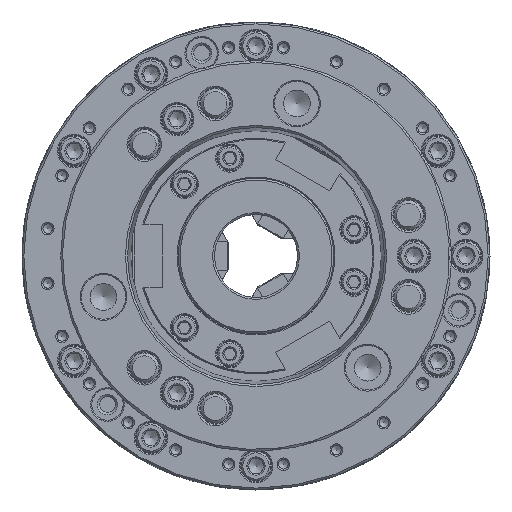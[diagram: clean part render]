
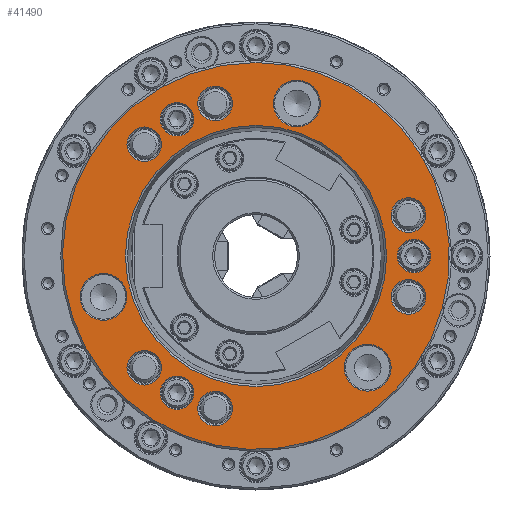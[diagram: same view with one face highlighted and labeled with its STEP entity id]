
A CAD part, left-side view. The second image highlights one B-rep face of the part: STEP entity #41490.
In plain terms, the highlighted planar face has unit normal (-1, 0, 0).
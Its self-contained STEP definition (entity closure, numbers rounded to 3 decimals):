
#260 = DIRECTION ( 'NONE',  ( 1., 0., 0. ) ) ;
#367 = ORIENTED_EDGE ( 'NONE', *, *, #120916, .F. ) ;
#732 = EDGE_CURVE ( 'NONE', #100605, #100605, #85970, .T. ) ;
#920 = ORIENTED_EDGE ( 'NONE', *, *, #25085, .T. ) ;
#1764 = PLANE ( 'NONE',  #100440 ) ;
#2007 = AXIS2_PLACEMENT_3D ( 'NONE', #51019, #2105, #121915 ) ;
#2105 = DIRECTION ( 'NONE',  ( 1., 0., 0. ) ) ;
#2402 = FACE_BOUND ( 'NONE', #23919, .T. ) ;
#3605 = CIRCLE ( 'NONE', #30381, 70.861 ) ;
#3634 = CIRCLE ( 'NONE', #63211, 9.4 ) ;
#3932 = EDGE_CURVE ( 'NONE', #11717, #11717, #55345, .T. ) ;
#5428 = DIRECTION ( 'NONE',  ( -1., 0., 0. ) ) ;
#8341 = AXIS2_PLACEMENT_3D ( 'NONE', #70715, #22408, #50711 ) ;
#8828 = DIRECTION ( 'NONE',  ( -1., 0., 0. ) ) ;
#8947 = AXIS2_PLACEMENT_3D ( 'NONE', #52843, #260, #33591 ) ;
#9149 = CARTESIAN_POINT ( 'NONE',  ( -114., 82.804, -34.892 ) ) ;
#11060 = DIRECTION ( 'NONE',  ( -1., 0., 0. ) ) ;
#11717 = VERTEX_POINT ( 'NONE', #81861 ) ;
#12013 = CIRCLE ( 'NONE', #96291, 9.4 ) ;
#12360 = CARTESIAN_POINT ( 'NONE',  ( -114., -85.725, 9.1 ) ) ;
#12477 = ORIENTED_EDGE ( 'NONE', *, *, #62846, .F. ) ;
#12690 = ORIENTED_EDGE ( 'NONE', *, *, #732, .F. ) ;
#13094 = CARTESIAN_POINT ( 'NONE',  ( -114., 60.617, 60.617 ) ) ;
#13577 = CIRCLE ( 'NONE', #75268, 9.1 ) ;
#14023 = FACE_BOUND ( 'NONE', #90210, .T. ) ;
#16627 = VERTEX_POINT ( 'NONE', #97760 ) ;
#17287 = DIRECTION ( 'NONE',  ( -1., 0., 0. ) ) ;
#17357 = AXIS2_PLACEMENT_3D ( 'NONE', #93718, #5428, #44695 ) ;
#17901 = CARTESIAN_POINT ( 'NONE',  ( -114., -82.804, 22.187 ) ) ;
#17956 = ORIENTED_EDGE ( 'NONE', *, *, #59643, .F. ) ;
#19079 = ORIENTED_EDGE ( 'NONE', *, *, #48054, .F. ) ;
#19335 = EDGE_CURVE ( 'NONE', #28300, #28300, #13577, .T. ) ;
#20704 = AXIS2_PLACEMENT_3D ( 'NONE', #120471, #63703, #82404 ) ;
#21113 = FACE_BOUND ( 'NONE', #90983, .T. ) ;
#21457 = DIRECTION ( 'NONE',  ( 0., 0., 1. ) ) ;
#21466 = ORIENTED_EDGE ( 'NONE', *, *, #19335, .F. ) ;
#22408 = DIRECTION ( 'NONE',  ( -1., 0., 0. ) ) ;
#23269 = AXIS2_PLACEMENT_3D ( 'NONE', #122128, #84081, #62188 ) ;
#23919 = EDGE_LOOP ( 'NONE', ( #111153 ) ) ;
#24275 = ORIENTED_EDGE ( 'NONE', *, *, #104916, .F. ) ;
#24648 = EDGE_LOOP ( 'NONE', ( #12477 ) ) ;
#25085 = EDGE_CURVE ( 'NONE', #40482, #40482, #101472, .T. ) ;
#27826 = CARTESIAN_POINT ( 'NONE',  ( -114., 60.617, 70.017 ) ) ;
#28300 = VERTEX_POINT ( 'NONE', #95976 ) ;
#30381 = AXIS2_PLACEMENT_3D ( 'NONE', #101222, #11060, #59968 ) ;
#30881 = VERTEX_POINT ( 'NONE', #9149 ) ;
#31981 = VERTEX_POINT ( 'NONE', #40322 ) ;
#32049 = FACE_BOUND ( 'NONE', #56333, .T. ) ;
#33310 = FACE_BOUND ( 'NONE', #123300, .T. ) ;
#33591 = DIRECTION ( 'NONE',  ( 0., 0., -1. ) ) ;
#33646 = DIRECTION ( 'NONE',  ( -1., 0., 0. ) ) ;
#34905 = DIRECTION ( 'NONE',  ( -1., 0., 0. ) ) ;
#34932 = CIRCLE ( 'NONE', #108999, 9.4 ) ;
#35134 = EDGE_LOOP ( 'NONE', ( #86595 ) ) ;
#37601 = CARTESIAN_POINT ( 'NONE',  ( -114., 42.863, 83.34 ) ) ;
#38258 = ORIENTED_EDGE ( 'NONE', *, *, #122965, .T. ) ;
#38402 = ORIENTED_EDGE ( 'NONE', *, *, #101103, .F. ) ;
#38410 = CARTESIAN_POINT ( 'NONE',  ( -114., 60.617, -51.217 ) ) ;
#39723 = EDGE_LOOP ( 'NONE', ( #38402 ) ) ;
#40322 = CARTESIAN_POINT ( 'NONE',  ( -114., 22.187, 92.204 ) ) ;
#40482 = VERTEX_POINT ( 'NONE', #68868 ) ;
#41490 = ADVANCED_FACE ( 'NONE', ( #32049, #60367, #2402, #21113, #14023, #41673, #51305, #73206, #119677, #100984, #99729, #33310, #51941, #53208 ), #1764, .F. ) ;
#41673 = FACE_BOUND ( 'NONE', #51429, .T. ) ;
#41797 = AXIS2_PLACEMENT_3D ( 'NONE', #13094, #33646, #21457 ) ;
#42314 = DIRECTION ( 'NONE',  ( 0., 0., -1. ) ) ;
#44695 = DIRECTION ( 'NONE',  ( 0., 0., 1. ) ) ;
#47526 = DIRECTION ( 'NONE',  ( -1., 0., 0. ) ) ;
#48054 = EDGE_CURVE ( 'NONE', #97090, #97090, #12013, .T. ) ;
#48186 = DIRECTION ( 'NONE',  ( 0., 0., 1. ) ) ;
#50711 = DIRECTION ( 'NONE',  ( 0., 0., 1. ) ) ;
#51019 = CARTESIAN_POINT ( 'NONE',  ( -114., -60.617, -60.617 ) ) ;
#51305 = FACE_BOUND ( 'NONE', #113168, .T. ) ;
#51429 = EDGE_LOOP ( 'NONE', ( #72892 ) ) ;
#51941 = FACE_OUTER_BOUND ( 'NONE', #92044, .T. ) ;
#52843 = CARTESIAN_POINT ( 'NONE',  ( -114., 82.804, -22.187 ) ) ;
#53208 = FACE_BOUND ( 'NONE', #39723, .T. ) ;
#54435 = DIRECTION ( 'NONE',  ( 0., 0., 1. ) ) ;
#54788 = EDGE_CURVE ( 'NONE', #31981, #31981, #54961, .T. ) ;
#54961 = CIRCLE ( 'NONE', #127007, 9.4 ) ;
#55345 = CIRCLE ( 'NONE', #2007, 12.705 ) ;
#55419 = DIRECTION ( 'NONE',  ( 0., 0., 1. ) ) ;
#56121 = VERTEX_POINT ( 'NONE', #95508 ) ;
#56122 = CIRCLE ( 'NONE', #8947, 12.705 ) ;
#56333 = EDGE_LOOP ( 'NONE', ( #38258 ) ) ;
#57550 = VERTEX_POINT ( 'NONE', #37601 ) ;
#58367 = VERTEX_POINT ( 'NONE', #59013 ) ;
#59013 = CARTESIAN_POINT ( 'NONE',  ( -114., 0., 70.861 ) ) ;
#59643 = EDGE_CURVE ( 'NONE', #58367, #58367, #3605, .T. ) ;
#59968 = DIRECTION ( 'NONE',  ( 0., 0., 1. ) ) ;
#60367 = FACE_BOUND ( 'NONE', #89497, .T. ) ;
#62188 = DIRECTION ( 'NONE',  ( 0., 0., 1. ) ) ;
#62846 = EDGE_CURVE ( 'NONE', #111221, #111221, #34932, .T. ) ;
#63211 = AXIS2_PLACEMENT_3D ( 'NONE', #125462, #17287, #84288 ) ;
#63474 = CARTESIAN_POINT ( 'NONE',  ( -114., -82.804, -12.787 ) ) ;
#63703 = DIRECTION ( 'NONE',  ( 1., 0., 0. ) ) ;
#67181 = DIRECTION ( 'NONE',  ( -1., 0., 0. ) ) ;
#68868 = CARTESIAN_POINT ( 'NONE',  ( -114., 0., 105. ) ) ;
#70508 = EDGE_CURVE ( 'NONE', #57550, #57550, #99838, .T. ) ;
#70715 = CARTESIAN_POINT ( 'NONE',  ( -114., 60.617, -60.617 ) ) ;
#71925 = CARTESIAN_POINT ( 'NONE',  ( -114., 105., 0. ) ) ;
#72892 = ORIENTED_EDGE ( 'NONE', *, *, #54788, .F. ) ;
#73206 = FACE_BOUND ( 'NONE', #35134, .T. ) ;
#74871 = VERTEX_POINT ( 'NONE', #27826 ) ;
#75268 = AXIS2_PLACEMENT_3D ( 'NONE', #82863, #103473, #54435 ) ;
#81861 = CARTESIAN_POINT ( 'NONE',  ( -114., -60.617, -73.322 ) ) ;
#82404 = DIRECTION ( 'NONE',  ( 0., 0., -1. ) ) ;
#82863 = CARTESIAN_POINT ( 'NONE',  ( -114., 42.862, -74.24 ) ) ;
#84081 = DIRECTION ( 'NONE',  ( -1., 0., 0. ) ) ;
#84288 = DIRECTION ( 'NONE',  ( 0., 0., 1. ) ) ;
#85039 = CIRCLE ( 'NONE', #41797, 9.4 ) ;
#85282 = DIRECTION ( 'NONE',  ( 0., 0., 1. ) ) ;
#85970 = CIRCLE ( 'NONE', #98338, 9.1 ) ;
#86595 = ORIENTED_EDGE ( 'NONE', *, *, #70508, .F. ) ;
#88835 = CIRCLE ( 'NONE', #20704, 12.705 ) ;
#89497 = EDGE_LOOP ( 'NONE', ( #97112 ) ) ;
#90210 = EDGE_LOOP ( 'NONE', ( #24275 ) ) ;
#90983 = EDGE_LOOP ( 'NONE', ( #367 ) ) ;
#92044 = EDGE_LOOP ( 'NONE', ( #920 ) ) ;
#93718 = CARTESIAN_POINT ( 'NONE',  ( -114., 42.863, 74.24 ) ) ;
#95202 = VERTEX_POINT ( 'NONE', #38410 ) ;
#95508 = CARTESIAN_POINT ( 'NONE',  ( -114., 22.187, -73.404 ) ) ;
#95976 = CARTESIAN_POINT ( 'NONE',  ( -114., 42.862, -65.14 ) ) ;
#96291 = AXIS2_PLACEMENT_3D ( 'NONE', #17901, #8828, #97755 ) ;
#96564 = CARTESIAN_POINT ( 'NONE',  ( -114., -82.804, -22.187 ) ) ;
#97090 = VERTEX_POINT ( 'NONE', #116410 ) ;
#97112 = ORIENTED_EDGE ( 'NONE', *, *, #3932, .T. ) ;
#97755 = DIRECTION ( 'NONE',  ( 0., 0., 1. ) ) ;
#97760 = CARTESIAN_POINT ( 'NONE',  ( -114., -22.187, 70.099 ) ) ;
#98338 = AXIS2_PLACEMENT_3D ( 'NONE', #105900, #67181, #85282 ) ;
#99729 = FACE_BOUND ( 'NONE', #117534, .T. ) ;
#99838 = CIRCLE ( 'NONE', #17357, 9.1 ) ;
#100440 = AXIS2_PLACEMENT_3D ( 'NONE', #71925, #111292, #42314 ) ;
#100605 = VERTEX_POINT ( 'NONE', #12360 ) ;
#100984 = FACE_BOUND ( 'NONE', #120088, .T. ) ;
#101103 = EDGE_CURVE ( 'NONE', #74871, #74871, #85039, .T. ) ;
#101222 = CARTESIAN_POINT ( 'NONE',  ( -114., 0., 0. ) ) ;
#101472 = CIRCLE ( 'NONE', #23269, 105. ) ;
#103473 = DIRECTION ( 'NONE',  ( -1., 0., 0. ) ) ;
#104916 = EDGE_CURVE ( 'NONE', #56121, #56121, #3634, .T. ) ;
#105900 = CARTESIAN_POINT ( 'NONE',  ( -114., -85.725, 0. ) ) ;
#108999 = AXIS2_PLACEMENT_3D ( 'NONE', #96564, #47526, #48186 ) ;
#109174 = CIRCLE ( 'NONE', #8341, 9.4 ) ;
#109810 = EDGE_CURVE ( 'NONE', #30881, #30881, #56122, .T. ) ;
#111153 = ORIENTED_EDGE ( 'NONE', *, *, #109810, .T. ) ;
#111221 = VERTEX_POINT ( 'NONE', #63474 ) ;
#111292 = DIRECTION ( 'NONE',  ( 1., 0., 0. ) ) ;
#113168 = EDGE_LOOP ( 'NONE', ( #21466 ) ) ;
#116410 = CARTESIAN_POINT ( 'NONE',  ( -114., -82.804, 31.587 ) ) ;
#117534 = EDGE_LOOP ( 'NONE', ( #12690 ) ) ;
#119677 = FACE_BOUND ( 'NONE', #24648, .T. ) ;
#120088 = EDGE_LOOP ( 'NONE', ( #19079 ) ) ;
#120471 = CARTESIAN_POINT ( 'NONE',  ( -114., -22.187, 82.804 ) ) ;
#120916 = EDGE_CURVE ( 'NONE', #95202, #95202, #109174, .T. ) ;
#121915 = DIRECTION ( 'NONE',  ( 0., 0., -1. ) ) ;
#122128 = CARTESIAN_POINT ( 'NONE',  ( -114., 0., 0. ) ) ;
#122965 = EDGE_CURVE ( 'NONE', #16627, #16627, #88835, .T. ) ;
#123186 = CARTESIAN_POINT ( 'NONE',  ( -114., 22.187, 82.804 ) ) ;
#123300 = EDGE_LOOP ( 'NONE', ( #17956 ) ) ;
#125462 = CARTESIAN_POINT ( 'NONE',  ( -114., 22.187, -82.804 ) ) ;
#127007 = AXIS2_PLACEMENT_3D ( 'NONE', #123186, #34905, #55419 ) ;
